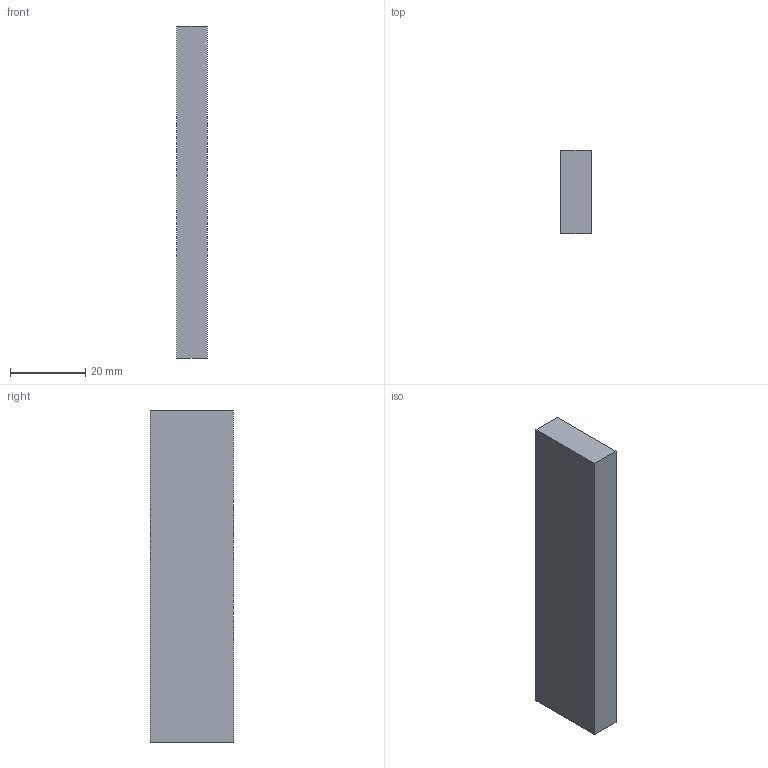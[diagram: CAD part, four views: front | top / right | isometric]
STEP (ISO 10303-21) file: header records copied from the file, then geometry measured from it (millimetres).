
FILE_DESCRIPTION(('Open CASCADE Model'),'2;1');
FILE_NAME('Open CASCADE Shape Model','2026-10-04T02:31:45',('Author'),( 'Open CASCADE'),'Open CASCADE STEP processor 8.0','Open CASCADE 8.0' ,'Unknown');
FILE_SCHEMA(('AUTOMOTIVE_DESIGN { 1 0 10303 214 1 1 1 1 }'));
Length unit declared in the file: millimetre
Products named in the file (1): Open CASCADE STEP translator 8.0 355
Bounding box: 8 x 22 x 88 mm (x, y, z)
Volume: 15488 mm3; surface area: 5632 mm2
Topology: 1 solids, 1 shells, 6 faces, 12 edges, 8 vertices
Faces by surface type: plane 6
Entity records: 322 total; most frequent: CARTESIAN_POINT 51, DIRECTION 50, LINE 36, VECTOR 36, ORIENTED_EDGE 24, PCURVE 24, DEFINITIONAL_REPRESENTATION 24, EDGE_CURVE 12
